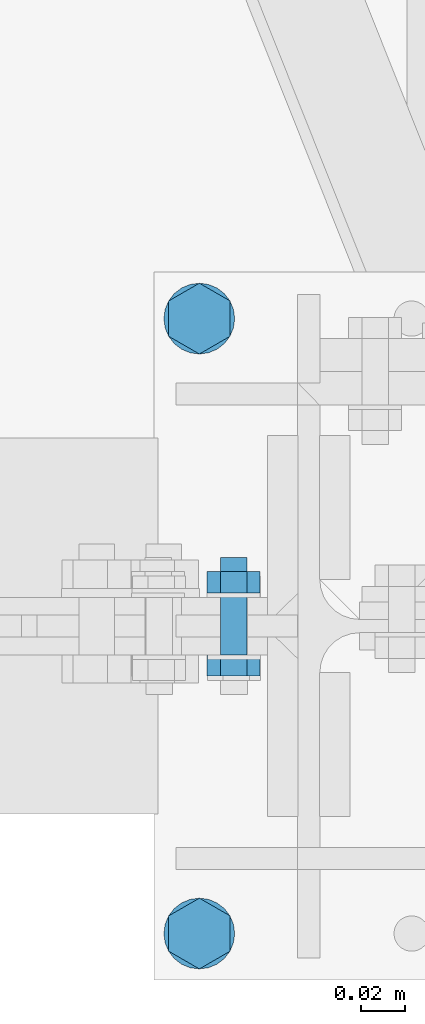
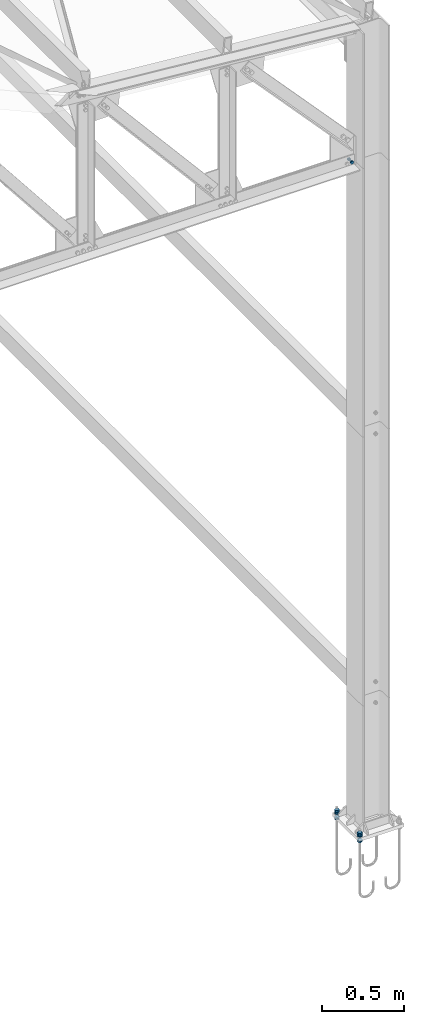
# One storey, part 94 of 251: 13 mechanical fasteners.
"""IFC4 building model written with IfcOpenShell, lengths in metres."""

from ifc_helpers import new_model, si_unit, frame, origin_with_axes, place, context, project, spatial, polyline, outline, extrude, type_object, element, save


model = new_model("IFC4")

# Units and contexts
model_context = context("Model", 3, precision=1e-05, world=origin_with_axes())
ifc_project = project(units=[si_unit("LENGTHUNIT", "METRE"), si_unit("AREAUNIT", "SQUARE_METRE"), si_unit("VOLUMEUNIT", "CUBIC_METRE"), si_unit("MASSUNIT", "GRAM", prefix="KILO"), si_unit("TIMEUNIT", "SECOND"), si_unit("PLANEANGLEUNIT", "RADIAN"), si_unit("SOLIDANGLEUNIT", "STERADIAN"), si_unit("THERMODYNAMICTEMPERATUREUNIT", "DEGREE_CELSIUS")], contexts=[model_context])

# Site, building, storey
placement_1 = place(None, origin_with_axes())
site = spatial("IfcSite", under=ifc_project, at=placement_1, Name="Italia", CompositionType="ELEMENT")
building = spatial("IfcBuilding", under=site, at=placement_1, Name="Deposito", CompositionType="ELEMENT")
storey = spatial("IfcBuildingStorey", under=building, at=placement_1, Name="Storey 0", CompositionType="ELEMENT", Elevation=0.0)

# Mechanical fasteners
mechanical_fastener_type_1 = type_object("IfcMechanicalFastenerType", Name="Collegamenti 0014_-001 0016_-054 0018_-056 0032_-002 0033_-058 0047_-003 0048_-060 0062_-004 0063_-005 0079_-008", PredefinedType="BOLT")
placement_2 = place(placement_1, origin_with_axes())
mechanical_fastener_1_placement = place(placement_2, origin_with_axes())
element("IfcMechanicalFastener", 1, at=mechanical_fastener_1_placement, inside=storey, type_object=mechanical_fastener_type_1, Name="Collegamenti 0014_-001 0016_-054 0018_-056 0032_-002 0033_-058 0047_-003 0048_-060 0062_-004 0063_-005 0079_-008", NominalDiameter=0.016, context=model_context, shape_type="SweptSolid", body=[
    extrude(outline(polyline([(0.0, 0.0), (-0.016, 0.0), (-0.024, 0.0138569), (-0.016, 0.0277138), (0.0, 0.0277138), (0.008, 0.0138569), (0.0, 0.0)])), frame((19.8744, -0.131, 0.079), z_axis=(0.0, 0.0, 1.0), x_axis=(0.0, 1.0, 0.0)), (0.0, 0.0, 1.0), 0.0128),
])
mechanical_fastener_type_2 = type_object("IfcMechanicalFastenerType", Name="Collegamenti 0014_-001 0016_-054 0018_-056 0032_-002 0033_-058 0047_-003 0048_-060 0062_-004 0063_-005 0079_-008", PredefinedType="BOLT")
mechanical_fastener_2_placement = place(placement_2, origin_with_axes())
element("IfcMechanicalFastener", 2, at=mechanical_fastener_2_placement, inside=storey, type_object=mechanical_fastener_type_2, Name="Collegamenti 0014_-001 0016_-054 0018_-056 0032_-002 0033_-058 0047_-003 0048_-060 0062_-004 0063_-005 0079_-008", NominalDiameter=0.016, context=model_context, shape_type="SweptSolid", body=[
    extrude(outline(polyline([(0.0, 0.0), (-0.016, 0.0), (-0.024, 0.0138569), (-0.016, 0.0277138), (0.0, 0.0277138), (0.008, 0.0138569), (0.0, 0.0)])), frame((19.8744, -0.131, 0.0918), z_axis=(0.0, 0.0, 1.0), x_axis=(0.0, 1.0, 0.0)), (0.0, 0.0, 1.0), 0.0128),
])
mechanical_fastener_type_3 = type_object("IfcMechanicalFastenerType", Name="Collegamenti 0014_-001 0016_-054 0018_-056 0032_-002 0033_-058 0047_-003 0048_-060 0062_-004 0063_-005 0079_-008", PredefinedType="BOLT")
mechanical_fastener_3_placement = place(placement_2, origin_with_axes())
element("IfcMechanicalFastener", 3, at=mechanical_fastener_3_placement, inside=storey, type_object=mechanical_fastener_type_3, Name="Collegamenti 0014_-001 0016_-054 0018_-056 0032_-002 0033_-058 0047_-003 0048_-060 0062_-004 0063_-005 0079_-008", NominalDiameter=0.016, context=model_context, shape_type="SweptSolid", body=[
    extrude(outline(polyline([(0.0, 0.0), (-0.016, 0.0), (-0.024, 0.0138569), (-0.016, 0.0277138), (0.0, 0.0277138), (0.008, 0.0138569), (0.0, 0.0)])), frame((19.8744, -0.131, 0.0332), z_axis=(0.0, 0.0, 1.0), x_axis=(0.0, 1.0, 0.0)), (0.0, 0.0, 1.0), 0.0128),
])
mechanical_fastener_type_4 = type_object("IfcMechanicalFastenerType", Name="Collegamenti 0014_-001 0016_-054 0018_-056 0032_-002 0033_-058 0047_-003 0048_-060 0062_-004 0063_-005 0079_-008", PredefinedType="BOLT")
mechanical_fastener_4_placement = place(placement_2, origin_with_axes())
element("IfcMechanicalFastener", 4, at=mechanical_fastener_4_placement, inside=storey, type_object=mechanical_fastener_type_4, Name="Collegamenti 0014_-001 0016_-054 0018_-056 0032_-002 0033_-058 0047_-003 0048_-060 0062_-004 0063_-005 0079_-008", NominalDiameter=0.032, context=model_context, shape_type="SweptSolid", body=[
    extrude(outline(polyline([(0.0, 0.0), (-0.000545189, -0.00414085), (-0.00214359, -0.00799942), (-0.0046863, -0.0113144), (-0.008, -0.0138569), (-0.0118589, -0.0154552), (-0.016, -0.0160007), (-0.0201411, -0.0154552), (-0.024, -0.0138569), (-0.0273137, -0.0113144), (-0.0298564, -0.00799942), (-0.0314548, -0.00414085), (-0.032, 0.0), (-0.0314548, 0.00414085), (-0.0298564, 0.00799942), (-0.0273137, 0.0113144), (-0.024, 0.0138569), (-0.0201411, 0.0154552), (-0.016, 0.0160007), (-0.0118589, 0.0154552), (-0.008, 0.0138569), (-0.0046863, 0.0113144), (-0.00214359, 0.00799942), (-0.000545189, 0.00414085), (0.0, 0.0)])), frame((19.8605, -0.123, 0.075), z_axis=(0.0, 0.0, 1.0), x_axis=(0.0, 1.0, 0.0)), (0.0, 0.0, 1.0), 0.00399999),
])
mechanical_fastener_type_5 = type_object("IfcMechanicalFastenerType", Name="Collegamenti 0014_-001 0016_-054 0018_-056 0032_-002 0033_-058 0047_-003 0048_-060 0062_-004 0063_-005 0079_-008", PredefinedType="BOLT")
mechanical_fastener_5_placement = place(placement_2, origin_with_axes())
element("IfcMechanicalFastener", 5, at=mechanical_fastener_5_placement, inside=storey, type_object=mechanical_fastener_type_5, Name="Collegamenti 0014_-001 0016_-054 0018_-056 0032_-002 0033_-058 0047_-003 0048_-060 0062_-004 0063_-005 0079_-008", NominalDiameter=0.032, context=model_context, shape_type="SweptSolid", body=[
    extrude(outline(polyline([(0.0, 0.0), (-0.000545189, -0.00414085), (-0.00214359, -0.00799942), (-0.0046863, -0.0113144), (-0.008, -0.0138569), (-0.0118589, -0.0154552), (-0.016, -0.0160007), (-0.0201411, -0.0154552), (-0.024, -0.0138569), (-0.0273137, -0.0113144), (-0.0298564, -0.00799942), (-0.0314548, -0.00414085), (-0.032, 0.0), (-0.0314548, 0.00414085), (-0.0298564, 0.00799942), (-0.0273137, 0.0113144), (-0.024, 0.0138569), (-0.0201411, 0.0154552), (-0.016, 0.0160007), (-0.0118589, 0.0154552), (-0.008, 0.0138569), (-0.0046863, 0.0113144), (-0.00214359, 0.00799942), (-0.000545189, 0.00414085), (0.0, 0.0)])), frame((19.8605, -0.123, 0.046), z_axis=(0.0, 0.0, 1.0), x_axis=(0.0, 1.0, 0.0)), (0.0, 0.0, 1.0), 0.004),
])
mechanical_fastener_type_6 = type_object("IfcMechanicalFastenerType", Name="Collegamenti 0014_-001 0016_-054 0018_-056 0032_-002 0033_-058 0047_-003 0048_-060 0062_-004 0063_-005 0079_-008", PredefinedType="BOLT")
mechanical_fastener_6_placement = place(placement_2, origin_with_axes())
element("IfcMechanicalFastener", 6, at=mechanical_fastener_6_placement, inside=storey, type_object=mechanical_fastener_type_6, Name="Collegamenti 0014_-001 0016_-054 0018_-056 0032_-002 0033_-058 0047_-003 0048_-060 0062_-004 0063_-005 0079_-008", NominalDiameter=0.016, context=model_context, shape_type="SweptSolid", body=[
    extrude(outline(polyline([(0.0, 0.0), (-0.016, 0.0), (-0.024, 0.0138569), (-0.016, 0.0277138), (0.0, 0.0277138), (0.008, 0.0138569), (0.0, 0.0)])), frame((19.8744, 0.147, 0.079), z_axis=(0.0, 0.0, 1.0), x_axis=(0.0, 1.0, 0.0)), (0.0, 0.0, 1.0), 0.0128),
])
mechanical_fastener_type_7 = type_object("IfcMechanicalFastenerType", Name="Collegamenti 0014_-001 0016_-054 0018_-056 0032_-002 0033_-058 0047_-003 0048_-060 0062_-004 0063_-005 0079_-008", PredefinedType="BOLT")
mechanical_fastener_7_placement = place(placement_2, origin_with_axes())
element("IfcMechanicalFastener", 7, at=mechanical_fastener_7_placement, inside=storey, type_object=mechanical_fastener_type_7, Name="Collegamenti 0014_-001 0016_-054 0018_-056 0032_-002 0033_-058 0047_-003 0048_-060 0062_-004 0063_-005 0079_-008", NominalDiameter=0.016, context=model_context, shape_type="SweptSolid", body=[
    extrude(outline(polyline([(0.0, 0.0), (-0.016, 0.0), (-0.024, 0.0138569), (-0.016, 0.0277138), (0.0, 0.0277138), (0.008, 0.0138569), (0.0, 0.0)])), frame((19.8744, 0.147, 0.0918), z_axis=(0.0, 0.0, 1.0), x_axis=(0.0, 1.0, 0.0)), (0.0, 0.0, 1.0), 0.0128),
])
mechanical_fastener_type_8 = type_object("IfcMechanicalFastenerType", Name="Collegamenti 0014_-001 0016_-054 0018_-056 0032_-002 0033_-058 0047_-003 0048_-060 0062_-004 0063_-005 0079_-008", PredefinedType="BOLT")
mechanical_fastener_8_placement = place(placement_2, origin_with_axes())
element("IfcMechanicalFastener", 8, at=mechanical_fastener_8_placement, inside=storey, type_object=mechanical_fastener_type_8, Name="Collegamenti 0014_-001 0016_-054 0018_-056 0032_-002 0033_-058 0047_-003 0048_-060 0062_-004 0063_-005 0079_-008", NominalDiameter=0.016, context=model_context, shape_type="SweptSolid", body=[
    extrude(outline(polyline([(0.0, 0.0), (-0.016, 0.0), (-0.024, 0.0138569), (-0.016, 0.0277138), (0.0, 0.0277138), (0.008, 0.0138569), (0.0, 0.0)])), frame((19.8744, 0.147, 0.0332), z_axis=(0.0, 0.0, 1.0), x_axis=(0.0, 1.0, 0.0)), (0.0, 0.0, 1.0), 0.0128),
])
mechanical_fastener_type_9 = type_object("IfcMechanicalFastenerType", Name="Collegamenti 0014_-001 0016_-054 0018_-056 0032_-002 0033_-058 0047_-003 0048_-060 0062_-004 0063_-005 0079_-008", PredefinedType="BOLT")
mechanical_fastener_9_placement = place(placement_2, origin_with_axes())
element("IfcMechanicalFastener", 9, at=mechanical_fastener_9_placement, inside=storey, type_object=mechanical_fastener_type_9, Name="Collegamenti 0014_-001 0016_-054 0018_-056 0032_-002 0033_-058 0047_-003 0048_-060 0062_-004 0063_-005 0079_-008", NominalDiameter=0.032, context=model_context, shape_type="SweptSolid", body=[
    extrude(outline(polyline([(0.0, 0.0), (-0.000545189, -0.00414085), (-0.00214359, -0.00799942), (-0.0046863, -0.0113144), (-0.008, -0.0138569), (-0.0118589, -0.0154552), (-0.016, -0.0160007), (-0.0201411, -0.0154552), (-0.024, -0.0138569), (-0.0273137, -0.0113144), (-0.0298564, -0.00799942), (-0.0314548, -0.00414085), (-0.032, 0.0), (-0.0314548, 0.00414085), (-0.0298564, 0.00799942), (-0.0273137, 0.0113144), (-0.024, 0.0138569), (-0.0201411, 0.0154552), (-0.016, 0.0160007), (-0.0118589, 0.0154552), (-0.008, 0.0138569), (-0.0046863, 0.0113144), (-0.00214359, 0.00799942), (-0.000545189, 0.00414085), (0.0, 0.0)])), frame((19.8605, 0.155, 0.075), z_axis=(0.0, 0.0, 1.0), x_axis=(0.0, 1.0, 0.0)), (0.0, 0.0, 1.0), 0.00399999),
])
mechanical_fastener_type_10 = type_object("IfcMechanicalFastenerType", Name="Collegamenti 0014_-001 0016_-054 0018_-056 0032_-002 0033_-058 0047_-003 0048_-060 0062_-004 0063_-005 0079_-008", PredefinedType="BOLT")
mechanical_fastener_10_placement = place(placement_2, origin_with_axes())
element("IfcMechanicalFastener", 10, at=mechanical_fastener_10_placement, inside=storey, type_object=mechanical_fastener_type_10, Name="Collegamenti 0014_-001 0016_-054 0018_-056 0032_-002 0033_-058 0047_-003 0048_-060 0062_-004 0063_-005 0079_-008", NominalDiameter=0.032, context=model_context, shape_type="SweptSolid", body=[
    extrude(outline(polyline([(0.0, 0.0), (-0.000545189, -0.00414085), (-0.00214359, -0.00799942), (-0.0046863, -0.0113144), (-0.008, -0.0138569), (-0.0118589, -0.0154552), (-0.016, -0.0160007), (-0.0201411, -0.0154552), (-0.024, -0.0138569), (-0.0273137, -0.0113144), (-0.0298564, -0.00799942), (-0.0314548, -0.00414085), (-0.032, 0.0), (-0.0314548, 0.00414085), (-0.0298564, 0.00799942), (-0.0273137, 0.0113144), (-0.024, 0.0138569), (-0.0201411, 0.0154552), (-0.016, 0.0160007), (-0.0118589, 0.0154552), (-0.008, 0.0138569), (-0.0046863, 0.0113144), (-0.00214359, 0.00799942), (-0.000545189, 0.00414085), (0.0, 0.0)])), frame((19.8605, 0.155, 0.046), z_axis=(0.0, 0.0, 1.0), x_axis=(0.0, 1.0, 0.0)), (0.0, 0.0, 1.0), 0.004),
])
mechanical_fastener_type_11 = type_object("IfcMechanicalFastenerType", Name="Reticolare 2", PredefinedType="BOLT")
mechanical_fastener_11_placement = place(placement_2, origin_with_axes())
element("IfcMechanicalFastener", 11, at=mechanical_fastener_11_placement, inside=storey, type_object=mechanical_fastener_type_11, Name="Reticolare 2", NominalDiameter=0.0119991, context=model_context, shape_type="SweptSolid", body=[
    extrude(outline(polyline([(0.0, 0.0), (-0.0119991, 0.0), (-0.0179996, 0.0103922), (-0.0119991, 0.0207844), (0.0, 0.0207844), (0.00600052, 0.0103922), (0.0, 0.0)])), frame((19.882, -0.013, 4.99661), z_axis=(0.0, -1.0, 0.0), x_axis=(1.0, 0.0, 0.0)), (0.0, 0.0, 1.0), 0.0096),
])
mechanical_fastener_type_12 = type_object("IfcMechanicalFastenerType", Name="Reticolare 2", PredefinedType="BOLT")
mechanical_fastener_12_placement = place(placement_2, origin_with_axes())
element("IfcMechanicalFastener", 12, at=mechanical_fastener_12_placement, inside=storey, type_object=mechanical_fastener_type_12, Name="Reticolare 2", NominalDiameter=0.012, context=model_context, shape_type="SweptSolid", body=[
    extrude(outline(polyline([(0.0, 0.0), (-0.000204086, -0.00155306), (-0.000804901, -0.00299978), (-0.00175858, -0.00424242), (-0.00300026, -0.00519609), (-0.00444794, -0.00579548), (-0.00600052, -0.00600004), (-0.0075531, -0.00579548), (-0.00900078, -0.00519609), (-0.0102425, -0.00424242), (-0.0111961, -0.00299978), (-0.011797, -0.00155306), (-0.012001, 0.0), (-0.011797, 0.00155306), (-0.0111961, 0.00299978), (-0.0102425, 0.00424242), (-0.00900078, 0.00519609), (-0.0075531, 0.00579548), (-0.00600052, 0.00600004), (-0.00444794, 0.00579548), (-0.00300026, 0.00519609), (-0.00175858, 0.00424242), (-0.000804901, 0.00299978), (-0.000204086, 0.00155306), (0.0, 0.0)])), frame((19.882, 0.031, 5.007), z_axis=(0.0, -1.0, 0.0), x_axis=(1.0, 0.0, 0.0)), (0.0, 0.0, 1.0), 0.044),
])
mechanical_fastener_type_13 = type_object("IfcMechanicalFastenerType", Name="Reticolare 2", PredefinedType="BOLT")
mechanical_fastener_13_placement = place(placement_2, origin_with_axes())
element("IfcMechanicalFastener", 13, at=mechanical_fastener_13_placement, inside=storey, type_object=mechanical_fastener_type_13, Name="Reticolare 2", NominalDiameter=0.0119991, context=model_context, shape_type="SweptSolid", body=[
    extrude(outline(polyline([(0.0, 0.0), (-0.0119991, 0.0), (-0.0179996, 0.0103922), (-0.0119991, 0.0207844), (0.0, 0.0207844), (0.00600052, 0.0103922), (0.0, 0.0)])), frame((19.882, 0.0246, 4.99661), z_axis=(0.0, -1.0, 0.0), x_axis=(1.0, 0.0, 0.0)), (0.0, 0.0, 1.0), 0.0096),
])

save(model, "model.ifc")
